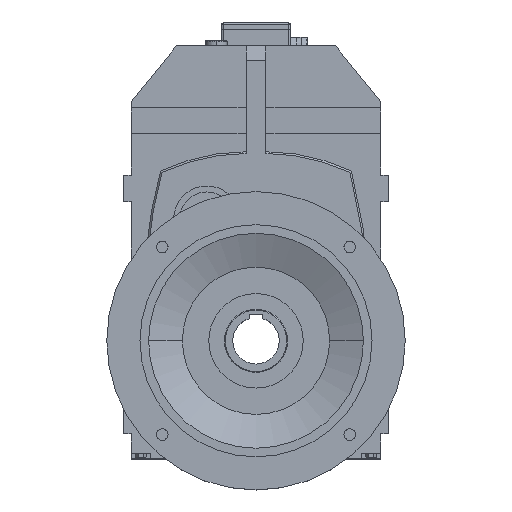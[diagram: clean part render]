
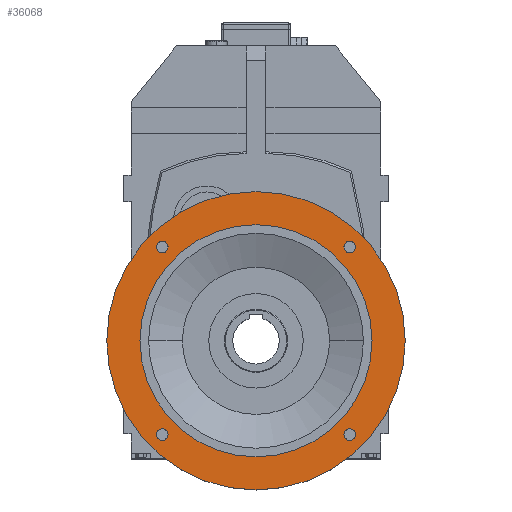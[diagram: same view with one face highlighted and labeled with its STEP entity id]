
A CAD part, top view. The second image highlights one B-rep face of the part: STEP entity #36068.
In plain terms, the highlighted planar face has unit normal (0, 0, 1).
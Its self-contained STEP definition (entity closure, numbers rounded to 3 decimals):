
#99 = DIRECTION ( 'NONE',  ( -1., 0., 0. ) ) ;
#454 = VERTEX_POINT ( 'NONE', #18559 ) ;
#745 = CARTESIAN_POINT ( 'NONE',  ( -212.538, -231.071, 168.25 ) ) ;
#1100 = CARTESIAN_POINT ( 'NONE',  ( -79.866, -89.65, 168.25 ) ) ;
#1301 = EDGE_CURVE ( 'NONE', #454, #12423, #38525, .T. ) ;
#1716 = DIRECTION ( 'NONE',  ( 0., -1., 0. ) ) ;
#2193 = VERTEX_POINT ( 'NONE', #24357 ) ;
#2253 = AXIS2_PLACEMENT_3D ( 'NONE', #14474, #33425, #99 ) ;
#2820 = ORIENTED_EDGE ( 'NONE', *, *, #16186, .F. ) ;
#4024 = DIRECTION ( 'NONE',  ( 0., -1., 0. ) ) ;
#7000 = CIRCLE ( 'NONE', #35007, 8.75 ) ;
#7092 = CARTESIAN_POINT ( 'NONE',  ( -212.538, -406.071, 168.25 ) ) ;
#7532 = AXIS2_PLACEMENT_3D ( 'NONE', #22947, #30792, #37695 ) ;
#7539 = CIRCLE ( 'NONE', #32223, 175. ) ;
#8035 = VERTEX_POINT ( 'NONE', #7092 ) ;
#8130 = FACE_BOUND ( 'NONE', #17931, .T. ) ;
#8565 = DIRECTION ( 'NONE',  ( 0., 0., -1. ) ) ;
#9172 = CIRCLE ( 'NONE', #47031, 8.75 ) ;
#9597 = VERTEX_POINT ( 'NONE', #20873 ) ;
#10350 = CARTESIAN_POINT ( 'NONE',  ( -71.116, -372.493, 168.25 ) ) ;
#10361 = CIRCLE ( 'NONE', #13011, 175. ) ;
#11068 = ORIENTED_EDGE ( 'NONE', *, *, #21140, .T. ) ;
#11112 = VERTEX_POINT ( 'NONE', #41688 ) ;
#11429 = EDGE_CURVE ( 'NONE', #34601, #9597, #43276, .T. ) ;
#11571 = DIRECTION ( 'NONE',  ( 0., 0., -1. ) ) ;
#11695 = CARTESIAN_POINT ( 'NONE',  ( -212.538, -56.071, 168.25 ) ) ;
#11763 = CARTESIAN_POINT ( 'NONE',  ( -353.959, -372.493, 168.25 ) ) ;
#12006 = DIRECTION ( 'NONE',  ( 0., 0., -1. ) ) ;
#12128 = ORIENTED_EDGE ( 'NONE', *, *, #16408, .F. ) ;
#12148 = DIRECTION ( 'NONE',  ( -1., 0., 0. ) ) ;
#12172 = PLANE ( 'NONE',  #28915 ) ;
#12423 = VERTEX_POINT ( 'NONE', #1100 ) ;
#13011 = AXIS2_PLACEMENT_3D ( 'NONE', #28335, #43437, #1716 ) ;
#13035 = DIRECTION ( 'NONE',  ( 0., 0., -1. ) ) ;
#13094 = ORIENTED_EDGE ( 'NONE', *, *, #37763, .F. ) ;
#13621 = CARTESIAN_POINT ( 'NONE',  ( -71.116, -372.493, 168.25 ) ) ;
#13959 = EDGE_CURVE ( 'NONE', #2193, #11112, #36292, .T. ) ;
#14474 = CARTESIAN_POINT ( 'NONE',  ( -71.116, -89.65, 168.25 ) ) ;
#16186 = EDGE_CURVE ( 'NONE', #11112, #2193, #25299, .T. ) ;
#16353 = VERTEX_POINT ( 'NONE', #18903 ) ;
#16408 = EDGE_CURVE ( 'NONE', #23227, #8035, #7539, .T. ) ;
#16430 = DIRECTION ( 'NONE',  ( 0., 0., -1. ) ) ;
#16544 = EDGE_LOOP ( 'NONE', ( #42925, #30747 ) ) ;
#16920 = DIRECTION ( 'NONE',  ( 0., 1., 0. ) ) ;
#17312 = CIRCLE ( 'NONE', #7532, 8.75 ) ;
#17333 = EDGE_CURVE ( 'NONE', #12423, #454, #17312, .T. ) ;
#17340 = AXIS2_PLACEMENT_3D ( 'NONE', #46768, #16430, #24266 ) ;
#17931 = EDGE_LOOP ( 'NONE', ( #33018, #39810 ) ) ;
#18100 = FACE_BOUND ( 'NONE', #37721, .T. ) ;
#18559 = CARTESIAN_POINT ( 'NONE',  ( -62.366, -89.65, 168.25 ) ) ;
#18793 = CARTESIAN_POINT ( 'NONE',  ( -353.959, -372.493, 168.25 ) ) ;
#18903 = CARTESIAN_POINT ( 'NONE',  ( -353.959, -363.743, 168.25 ) ) ;
#19345 = CARTESIAN_POINT ( 'NONE',  ( -353.959, -89.65, 168.25 ) ) ;
#19599 = CIRCLE ( 'NONE', #28648, 8.75 ) ;
#19628 = DIRECTION ( 'NONE',  ( 0., 0., -1. ) ) ;
#19863 = CIRCLE ( 'NONE', #17340, 8.75 ) ;
#20497 = CARTESIAN_POINT ( 'NONE',  ( -353.959, -381.243, 168.25 ) ) ;
#20846 = ORIENTED_EDGE ( 'NONE', *, *, #36846, .T. ) ;
#20873 = CARTESIAN_POINT ( 'NONE',  ( -71.116, -381.243, 168.25 ) ) ;
#21140 = EDGE_CURVE ( 'NONE', #34271, #16353, #9172, .T. ) ;
#22947 = CARTESIAN_POINT ( 'NONE',  ( -71.116, -89.65, 168.25 ) ) ;
#23227 = VERTEX_POINT ( 'NONE', #11695 ) ;
#23393 = EDGE_CURVE ( 'NONE', #9597, #34601, #7000, .T. ) ;
#24114 = EDGE_LOOP ( 'NONE', ( #20846, #11068 ) ) ;
#24136 = VERTEX_POINT ( 'NONE', #37697 ) ;
#24266 = DIRECTION ( 'NONE',  ( -1., 0., 0. ) ) ;
#24357 = CARTESIAN_POINT ( 'NONE',  ( -212.538, -456.071, 168.25 ) ) ;
#25299 = CIRCLE ( 'NONE', #33045, 225. ) ;
#26246 = DIRECTION ( 'NONE',  ( 0., 0., 1. ) ) ;
#26688 = EDGE_LOOP ( 'NONE', ( #13094, #12128 ) ) ;
#26948 = DIRECTION ( 'NONE',  ( 0., 1., 0. ) ) ;
#27877 = CIRCLE ( 'NONE', #38845, 8.75 ) ;
#28024 = FACE_OUTER_BOUND ( 'NONE', #37436, .T. ) ;
#28335 = CARTESIAN_POINT ( 'NONE',  ( -212.538, -231.071, 168.25 ) ) ;
#28648 = AXIS2_PLACEMENT_3D ( 'NONE', #11763, #19628, #34361 ) ;
#28915 = AXIS2_PLACEMENT_3D ( 'NONE', #38376, #12006, #30321 ) ;
#29561 = ORIENTED_EDGE ( 'NONE', *, *, #17333, .T. ) ;
#29989 = CARTESIAN_POINT ( 'NONE',  ( -212.538, -231.071, 168.25 ) ) ;
#30321 = DIRECTION ( 'NONE',  ( 0., 1., 0. ) ) ;
#30580 = VERTEX_POINT ( 'NONE', #37524 ) ;
#30668 = DIRECTION ( 'NONE',  ( 0., -1., 0. ) ) ;
#30747 = ORIENTED_EDGE ( 'NONE', *, *, #34166, .T. ) ;
#30792 = DIRECTION ( 'NONE',  ( 0., 0., -1. ) ) ;
#32129 = FACE_BOUND ( 'NONE', #26688, .T. ) ;
#32223 = AXIS2_PLACEMENT_3D ( 'NONE', #745, #26246, #4024 ) ;
#32608 = DIRECTION ( 'NONE',  ( 0., 0., -1. ) ) ;
#33018 = ORIENTED_EDGE ( 'NONE', *, *, #11429, .T. ) ;
#33039 = ORIENTED_EDGE ( 'NONE', *, *, #13959, .F. ) ;
#33045 = AXIS2_PLACEMENT_3D ( 'NONE', #43198, #13035, #30668 ) ;
#33081 = ORIENTED_EDGE ( 'NONE', *, *, #1301, .T. ) ;
#33425 = DIRECTION ( 'NONE',  ( 0., 0., -1. ) ) ;
#33788 = DIRECTION ( 'NONE',  ( 0., 0., -1. ) ) ;
#33939 = DIRECTION ( 'NONE',  ( 0., -1., 0. ) ) ;
#34166 = EDGE_CURVE ( 'NONE', #24136, #30580, #27877, .T. ) ;
#34271 = VERTEX_POINT ( 'NONE', #20497 ) ;
#34361 = DIRECTION ( 'NONE',  ( 0., 1., 0. ) ) ;
#34601 = VERTEX_POINT ( 'NONE', #42144 ) ;
#35007 = AXIS2_PLACEMENT_3D ( 'NONE', #13621, #39849, #16920 ) ;
#36068 = ADVANCED_FACE ( 'NONE', ( #18100, #8130, #42734, #43897, #28024, #32129 ), #12172, .F. ) ;
#36115 = EDGE_CURVE ( 'NONE', #30580, #24136, #19863, .T. ) ;
#36292 = CIRCLE ( 'NONE', #40554, 225. ) ;
#36383 = DIRECTION ( 'NONE',  ( 0., 1., 0. ) ) ;
#36846 = EDGE_CURVE ( 'NONE', #16353, #34271, #19599, .T. ) ;
#37436 = EDGE_LOOP ( 'NONE', ( #33039, #2820 ) ) ;
#37524 = CARTESIAN_POINT ( 'NONE',  ( -362.709, -89.65, 168.25 ) ) ;
#37695 = DIRECTION ( 'NONE',  ( -1., 0., 0. ) ) ;
#37697 = CARTESIAN_POINT ( 'NONE',  ( -345.209, -89.65, 168.25 ) ) ;
#37721 = EDGE_LOOP ( 'NONE', ( #29561, #33081 ) ) ;
#37763 = EDGE_CURVE ( 'NONE', #8035, #23227, #10361, .T. ) ;
#38376 = CARTESIAN_POINT ( 'NONE',  ( -212.538, -6.071, 168.25 ) ) ;
#38525 = CIRCLE ( 'NONE', #2253, 8.75 ) ;
#38845 = AXIS2_PLACEMENT_3D ( 'NONE', #19345, #8565, #12148 ) ;
#39810 = ORIENTED_EDGE ( 'NONE', *, *, #23393, .T. ) ;
#39849 = DIRECTION ( 'NONE',  ( 0., 0., -1. ) ) ;
#40554 = AXIS2_PLACEMENT_3D ( 'NONE', #29989, #33788, #33939 ) ;
#41688 = CARTESIAN_POINT ( 'NONE',  ( -212.538, -6.071, 168.25 ) ) ;
#42144 = CARTESIAN_POINT ( 'NONE',  ( -71.116, -363.743, 168.25 ) ) ;
#42367 = AXIS2_PLACEMENT_3D ( 'NONE', #10350, #32608, #36383 ) ;
#42734 = FACE_BOUND ( 'NONE', #24114, .T. ) ;
#42925 = ORIENTED_EDGE ( 'NONE', *, *, #36115, .T. ) ;
#43198 = CARTESIAN_POINT ( 'NONE',  ( -212.538, -231.071, 168.25 ) ) ;
#43276 = CIRCLE ( 'NONE', #42367, 8.75 ) ;
#43437 = DIRECTION ( 'NONE',  ( 0., 0., 1. ) ) ;
#43897 = FACE_BOUND ( 'NONE', #16544, .T. ) ;
#46768 = CARTESIAN_POINT ( 'NONE',  ( -353.959, -89.65, 168.25 ) ) ;
#47031 = AXIS2_PLACEMENT_3D ( 'NONE', #18793, #11571, #26948 ) ;
